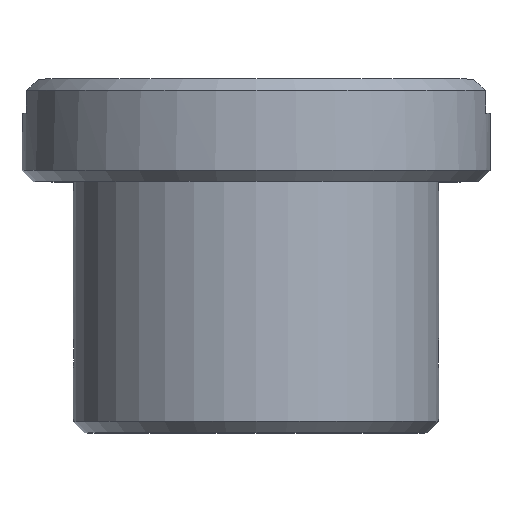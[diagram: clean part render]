
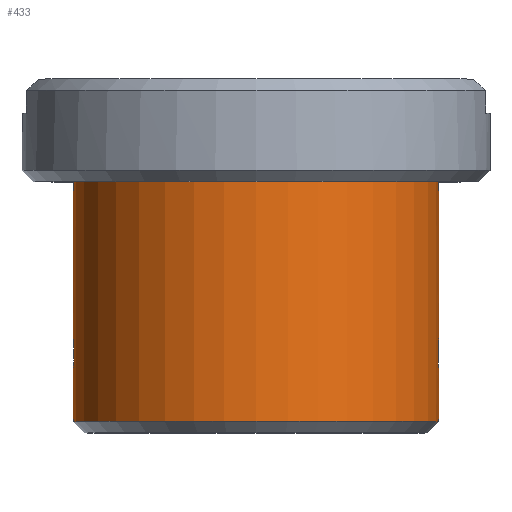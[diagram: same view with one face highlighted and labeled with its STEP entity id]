
A CAD part, top view. The second image highlights one B-rep face of the part: STEP entity #433.
In plain terms, the highlighted cylindrical face has radius 16 mm (diameter 32 mm), a full revolution.
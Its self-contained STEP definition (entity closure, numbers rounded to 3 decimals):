
#29=B_SPLINE_CURVE_WITH_KNOTS('',3,(#666,#667,#668,#669,#670,#671,#672,
#673,#674,#675,#676,#677,#678,#679,#680,#681,#682,#683,#684,#685,#686,#687),
 .UNSPECIFIED.,.F.,.F.,(4,2,2,2,2,2,2,2,2,2,4),(0.186,0.204,
0.223,0.26,0.316,0.371,
0.421,0.471,0.512,0.532,0.552),
 .UNSPECIFIED.);
#30=B_SPLINE_CURVE_WITH_KNOTS('',3,(#689,#690,#691,#692,#693,#694,#695,
#696,#697,#698,#699,#700),.UNSPECIFIED.,.F.,.F.,(4,2,2,2,2,4),(0.,0.055,
0.111,0.148,0.167,0.186),
 .UNSPECIFIED.);
#31=B_SPLINE_CURVE_WITH_KNOTS('',3,(#701,#702,#703,#704,#705,#706,#707,
#708,#709,#710),.UNSPECIFIED.,.F.,.F.,(4,2,2,2,4),(0.552,0.59,
0.627,0.68,0.734),.UNSPECIFIED.);
#34=B_SPLINE_CURVE_WITH_KNOTS('',3,(#745,#746,#747,#748,#749,#750,#751,
#752,#753,#754,#755,#756),.UNSPECIFIED.,.F.,.F.,(4,2,2,2,2,4),(0.,0.05,
0.099,0.14,0.161,0.181),
 .UNSPECIFIED.);
#35=B_SPLINE_CURVE_WITH_KNOTS('',3,(#757,#758,#759,#760,#761,#762,#763,
#764,#765,#766,#767,#768,#769,#770,#771,#772,#773,#774,#775,#776,#777,#778,
#779,#780,#781,#782,#783,#784,#785,#786),.UNSPECIFIED.,.F.,.F.,(4,2,2,2,
2,2,2,2,2,2,2,2,2,2,4),(0.181,0.218,0.255,
0.309,0.362,0.418,0.473,
0.51,0.529,0.548,0.567,
0.585,0.623,0.678,0.734),
 .UNSPECIFIED.);
#54=LINE('',#868,#75);
#55=LINE('',#869,#76);
#75=VECTOR('',#619,16.);
#76=VECTOR('',#620,16.);
#85=CYLINDRICAL_SURFACE('',#503,16.);
#90=FACE_BOUND('',#149,.T.);
#119=FACE_OUTER_BOUND('',#148,.T.);
#148=EDGE_LOOP('',(#380,#381,#382,#383,#384,#385,#386,#387,#388));
#149=EDGE_LOOP('',(#389,#390));
#169=CIRCLE('',#502,16.);
#170=CIRCLE('',#504,16.);
#179=VERTEX_POINT('',#663);
#180=VERTEX_POINT('',#665);
#181=VERTEX_POINT('',#688);
#189=VERTEX_POINT('',#742);
#190=VERTEX_POINT('',#744);
#210=VERTEX_POINT('',#862);
#211=VERTEX_POINT('',#866);
#224=EDGE_CURVE('',#180,#179,#29,.T.);
#225=EDGE_CURVE('',#181,#180,#30,.T.);
#226=EDGE_CURVE('',#179,#181,#31,.T.);
#238=EDGE_CURVE('',#190,#189,#34,.T.);
#239=EDGE_CURVE('',#189,#190,#35,.T.);
#268=EDGE_CURVE('',#210,#210,#169,.T.);
#270=EDGE_CURVE('',#211,#211,#170,.T.);
#271=EDGE_CURVE('',#211,#180,#54,.T.);
#272=EDGE_CURVE('',#179,#210,#55,.T.);
#380=ORIENTED_EDGE('',*,*,#270,.F.);
#381=ORIENTED_EDGE('',*,*,#271,.T.);
#382=ORIENTED_EDGE('',*,*,#224,.T.);
#383=ORIENTED_EDGE('',*,*,#272,.T.);
#384=ORIENTED_EDGE('',*,*,#268,.T.);
#385=ORIENTED_EDGE('',*,*,#272,.F.);
#386=ORIENTED_EDGE('',*,*,#226,.T.);
#387=ORIENTED_EDGE('',*,*,#225,.T.);
#388=ORIENTED_EDGE('',*,*,#271,.F.);
#389=ORIENTED_EDGE('',*,*,#238,.T.);
#390=ORIENTED_EDGE('',*,*,#239,.T.);
#433=ADVANCED_FACE('',(#119,#90),#85,.T.);
#502=AXIS2_PLACEMENT_3D('',#863,#612,#613);
#503=AXIS2_PLACEMENT_3D('',#865,#615,#616);
#504=AXIS2_PLACEMENT_3D('',#867,#617,#618);
#612=DIRECTION('center_axis',(0.,1.,0.));
#613=DIRECTION('ref_axis',(1.,0.,0.));
#615=DIRECTION('center_axis',(0.,1.,0.));
#616=DIRECTION('ref_axis',(-1.,0.,0.));
#617=DIRECTION('center_axis',(0.,1.,0.));
#618=DIRECTION('ref_axis',(1.,0.,0.));
#619=DIRECTION('',(0.,-1.,0.));
#620=DIRECTION('',(0.,-1.,0.));
#663=CARTESIAN_POINT('',(16.,5.586,0.));
#665=CARTESIAN_POINT('',(16.,8.414,0.));
#666=CARTESIAN_POINT('Ctrl Pts',(16.,8.414,0.));
#667=CARTESIAN_POINT('Ctrl Pts',(16.,8.414,-0.062));
#668=CARTESIAN_POINT('Ctrl Pts',(16.,8.405,-0.126));
#669=CARTESIAN_POINT('Ctrl Pts',(15.998,8.371,-0.249));
#670=CARTESIAN_POINT('Ctrl Pts',(15.997,8.345,-0.309));
#671=CARTESIAN_POINT('Ctrl Pts',(15.993,8.247,-0.478));
#672=CARTESIAN_POINT('Ctrl Pts',(15.99,8.153,-0.578));
#673=CARTESIAN_POINT('Ctrl Pts',(15.982,7.911,-0.769));
#674=CARTESIAN_POINT('Ctrl Pts',(15.977,7.732,-0.858));
#675=CARTESIAN_POINT('Ctrl Pts',(15.97,7.353,-0.973));
#676=CARTESIAN_POINT('Ctrl Pts',(15.969,7.153,-1.));
#677=CARTESIAN_POINT('Ctrl Pts',(15.969,6.803,-1.));
#678=CARTESIAN_POINT('Ctrl Pts',(15.97,6.623,-0.978));
#679=CARTESIAN_POINT('Ctrl Pts',(15.976,6.281,-0.881));
#680=CARTESIAN_POINT('Ctrl Pts',(15.98,6.118,-0.805));
#681=CARTESIAN_POINT('Ctrl Pts',(15.988,5.874,-0.627));
#682=CARTESIAN_POINT('Ctrl Pts',(15.992,5.77,-0.521));
#683=CARTESIAN_POINT('Ctrl Pts',(15.997,5.662,-0.337));
#684=CARTESIAN_POINT('Ctrl Pts',(15.998,5.633,-0.272));
#685=CARTESIAN_POINT('Ctrl Pts',(16.,5.595,-0.137));
#686=CARTESIAN_POINT('Ctrl Pts',(16.,5.586,-0.068));
#687=CARTESIAN_POINT('Ctrl Pts',(16.,5.586,0.));
#688=CARTESIAN_POINT('',(15.969,6.969,1.));
#689=CARTESIAN_POINT('Ctrl Pts',(15.969,6.969,1.));
#690=CARTESIAN_POINT('Ctrl Pts',(15.969,7.153,1.));
#691=CARTESIAN_POINT('Ctrl Pts',(15.97,7.353,0.973));
#692=CARTESIAN_POINT('Ctrl Pts',(15.977,7.732,0.858));
#693=CARTESIAN_POINT('Ctrl Pts',(15.982,7.911,0.769));
#694=CARTESIAN_POINT('Ctrl Pts',(15.99,8.153,0.578));
#695=CARTESIAN_POINT('Ctrl Pts',(15.993,8.247,0.478));
#696=CARTESIAN_POINT('Ctrl Pts',(15.997,8.345,0.309));
#697=CARTESIAN_POINT('Ctrl Pts',(15.998,8.371,0.249));
#698=CARTESIAN_POINT('Ctrl Pts',(16.,8.405,0.126));
#699=CARTESIAN_POINT('Ctrl Pts',(16.,8.414,0.062));
#700=CARTESIAN_POINT('Ctrl Pts',(16.,8.414,0.));
#701=CARTESIAN_POINT('Ctrl Pts',(16.,5.586,0.));
#702=CARTESIAN_POINT('Ctrl Pts',(16.,5.586,0.124));
#703=CARTESIAN_POINT('Ctrl Pts',(15.998,5.619,0.252));
#704=CARTESIAN_POINT('Ctrl Pts',(15.993,5.741,0.481));
#705=CARTESIAN_POINT('Ctrl Pts',(15.99,5.83,0.582));
#706=CARTESIAN_POINT('Ctrl Pts',(15.982,6.062,0.775));
#707=CARTESIAN_POINT('Ctrl Pts',(15.977,6.233,0.862));
#708=CARTESIAN_POINT('Ctrl Pts',(15.97,6.597,0.975));
#709=CARTESIAN_POINT('Ctrl Pts',(15.969,6.791,1.));
#710=CARTESIAN_POINT('Ctrl Pts',(15.969,6.969,1.));
#742=CARTESIAN_POINT('',(-16.,5.586,0.));
#744=CARTESIAN_POINT('',(-15.969,6.969,1.));
#745=CARTESIAN_POINT('Ctrl Pts',(-15.969,6.969,1.));
#746=CARTESIAN_POINT('Ctrl Pts',(-15.969,6.803,1.));
#747=CARTESIAN_POINT('Ctrl Pts',(-15.97,6.623,0.978));
#748=CARTESIAN_POINT('Ctrl Pts',(-15.976,6.281,0.881));
#749=CARTESIAN_POINT('Ctrl Pts',(-15.98,6.118,0.805));
#750=CARTESIAN_POINT('Ctrl Pts',(-15.988,5.874,0.627));
#751=CARTESIAN_POINT('Ctrl Pts',(-15.992,5.77,0.521));
#752=CARTESIAN_POINT('Ctrl Pts',(-15.997,5.662,0.337));
#753=CARTESIAN_POINT('Ctrl Pts',(-15.998,5.633,0.272));
#754=CARTESIAN_POINT('Ctrl Pts',(-16.,5.595,0.137));
#755=CARTESIAN_POINT('Ctrl Pts',(-16.,5.586,0.068));
#756=CARTESIAN_POINT('Ctrl Pts',(-16.,5.586,0.));
#757=CARTESIAN_POINT('Ctrl Pts',(-16.,5.586,0.));
#758=CARTESIAN_POINT('Ctrl Pts',(-16.,5.586,-0.124));
#759=CARTESIAN_POINT('Ctrl Pts',(-15.998,5.619,-0.252));
#760=CARTESIAN_POINT('Ctrl Pts',(-15.993,5.741,-0.481));
#761=CARTESIAN_POINT('Ctrl Pts',(-15.99,5.83,-0.582));
#762=CARTESIAN_POINT('Ctrl Pts',(-15.982,6.062,-0.775));
#763=CARTESIAN_POINT('Ctrl Pts',(-15.977,6.233,-0.862));
#764=CARTESIAN_POINT('Ctrl Pts',(-15.97,6.597,-0.975));
#765=CARTESIAN_POINT('Ctrl Pts',(-15.969,6.791,-1.));
#766=CARTESIAN_POINT('Ctrl Pts',(-15.969,7.153,-1.));
#767=CARTESIAN_POINT('Ctrl Pts',(-15.97,7.353,-0.973));
#768=CARTESIAN_POINT('Ctrl Pts',(-15.977,7.732,-0.858));
#769=CARTESIAN_POINT('Ctrl Pts',(-15.982,7.911,-0.769));
#770=CARTESIAN_POINT('Ctrl Pts',(-15.99,8.153,-0.578));
#771=CARTESIAN_POINT('Ctrl Pts',(-15.993,8.247,-0.478));
#772=CARTESIAN_POINT('Ctrl Pts',(-15.997,8.345,-0.309));
#773=CARTESIAN_POINT('Ctrl Pts',(-15.998,8.371,-0.249));
#774=CARTESIAN_POINT('Ctrl Pts',(-16.,8.405,-0.126));
#775=CARTESIAN_POINT('Ctrl Pts',(-16.,8.414,-0.062));
#776=CARTESIAN_POINT('Ctrl Pts',(-16.,8.414,0.062));
#777=CARTESIAN_POINT('Ctrl Pts',(-16.,8.405,0.126));
#778=CARTESIAN_POINT('Ctrl Pts',(-15.998,8.371,0.249));
#779=CARTESIAN_POINT('Ctrl Pts',(-15.997,8.345,0.309));
#780=CARTESIAN_POINT('Ctrl Pts',(-15.993,8.247,0.478));
#781=CARTESIAN_POINT('Ctrl Pts',(-15.99,8.153,0.578));
#782=CARTESIAN_POINT('Ctrl Pts',(-15.982,7.911,0.769));
#783=CARTESIAN_POINT('Ctrl Pts',(-15.977,7.732,0.858));
#784=CARTESIAN_POINT('Ctrl Pts',(-15.97,7.353,0.973));
#785=CARTESIAN_POINT('Ctrl Pts',(-15.969,7.153,1.));
#786=CARTESIAN_POINT('Ctrl Pts',(-15.969,6.969,1.));
#862=CARTESIAN_POINT('',(16.,1.,0.));
#863=CARTESIAN_POINT('Origin',(0.,1.,0.));
#865=CARTESIAN_POINT('Origin',(0.,11.5,0.));
#866=CARTESIAN_POINT('',(16.,22.,0.));
#867=CARTESIAN_POINT('Origin',(0.,22.,0.));
#868=CARTESIAN_POINT('',(16.,11.5,0.));
#869=CARTESIAN_POINT('',(16.,11.5,0.));
